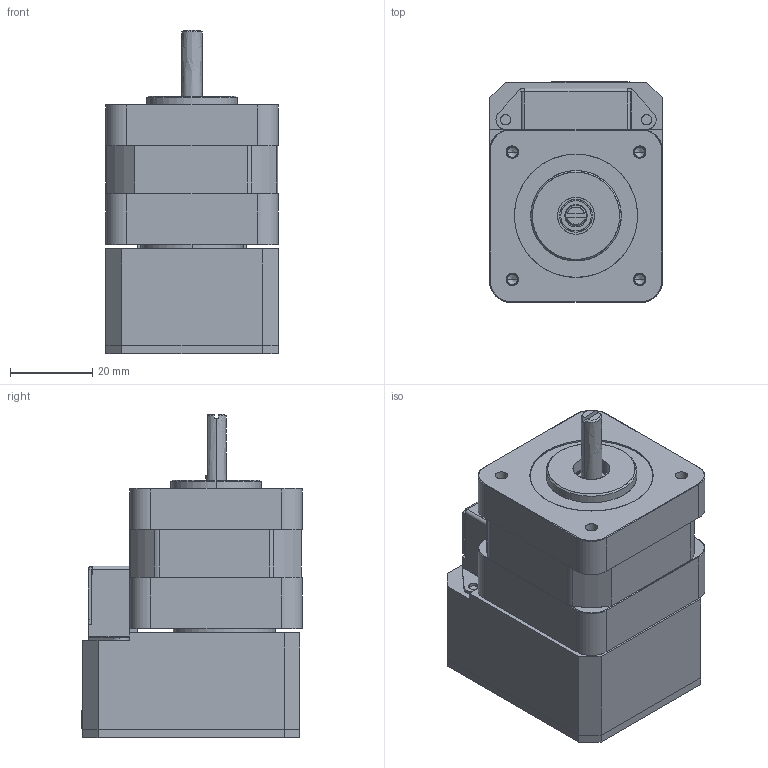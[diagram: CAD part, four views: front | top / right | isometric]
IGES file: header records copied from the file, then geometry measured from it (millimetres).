
Start section: SolidWorks IGES file using analytic representation for surfaces
Global section: file name: C:\Users\render\Desktop\Uli\CM1-X-17S30.IGS; native system: SolidWorks 2009; preprocessor: SolidWorks 2009; author: render; date: 100105.122505; units: millimetre
Bounding box: 42.03 x 53.75 x 78.71 mm (x, y, z)
Surface area: 40549.1 mm2 (no closed solid volume)
Topology: 0 solids, 0 shells, 787 faces, 7128 edges, 7120 vertices
Faces by surface type: bspline 581, revolution 206
